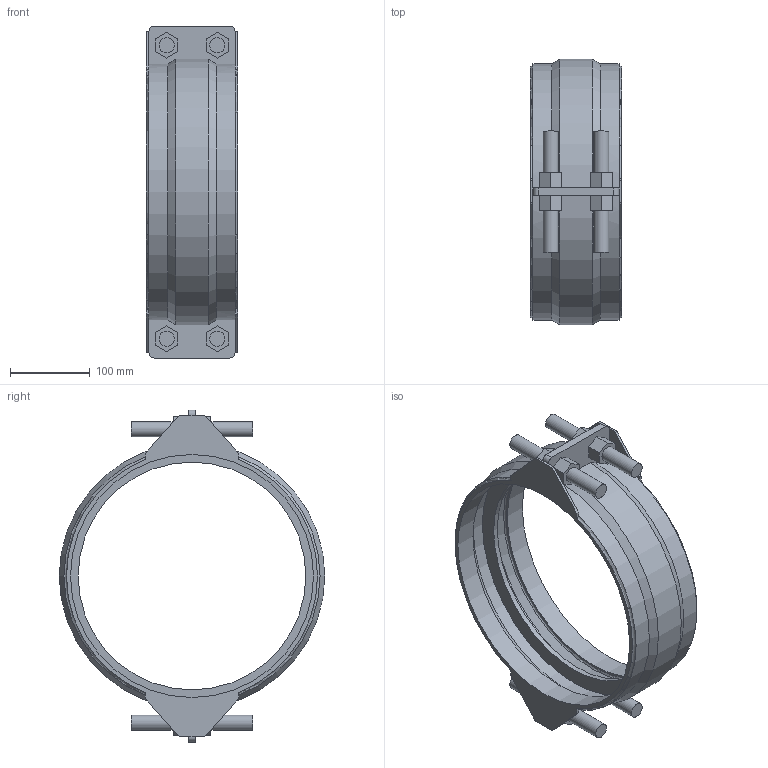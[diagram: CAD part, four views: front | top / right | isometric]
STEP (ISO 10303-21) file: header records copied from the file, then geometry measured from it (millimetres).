
FILE_DESCRIPTION(/* description */ ('VIC SS RESTRAINED COUPLING STYLE 234S (FLEX) (BRS)','CAx-IF Rec.Pracs.---Representation and Presentation of Product Manufacturing Information (PMI)---4.0---2014-10-13'),/* implementation_level */ '2;1');
FILE_NAME(/* name */ 'C:\Users\kkamble\AppData\Roaming\Autodesk\ApplicationPlugins\Back Up\Victaulic_VBSP_Coupling Flexible Restrained_Style 234S (BRS)\Victaulic_VBSP_Coupling Flexible Restrained_Style 234S (BRS)_200psi_12 (300).stp',/* time_stamp */ '2020-09-22T18:40:41+05:00',/* author */ ('Vjadhav'),/* organization */ ('Victaulic'),/* preprocessor_version */ 'ST-DEVELOPER v17.2',/* originating_system */ 'Autodesk Inventor 2019',/* authorisation */ '');
FILE_SCHEMA (('AP242_MANAGED_MODEL_BASED_3D_ENGINEERING_MIM_LF { 1 0 10303 442 1 1 4 }'));
Length unit declared in the file: inch
Products named in the file (1): Style_234S_Type_2_200psi-12.0
Bounding box: 114.3 x 333.04 x 416.56 mm (x, y, z)
Volume: 1137534.4 mm3; surface area: 379846.6 mm2
Topology: 1 solids, 1 shells, 155 faces, 393 edges, 260 vertices
Faces by surface type: plane 104, cylinder 39, torus 6, cone 6
Full cylindrical faces by diameter (mm): 19.05 x8, 285.75 x1, 304.8 x2, 325.898 x2
Entity records: 5026 total; most frequent: CARTESIAN_POINT 914, DIRECTION 825, ORIENTED_EDGE 786, EDGE_CURVE 393, AXIS2_PLACEMENT_3D 279, LINE 267, VECTOR 267, VERTEX_POINT 260
